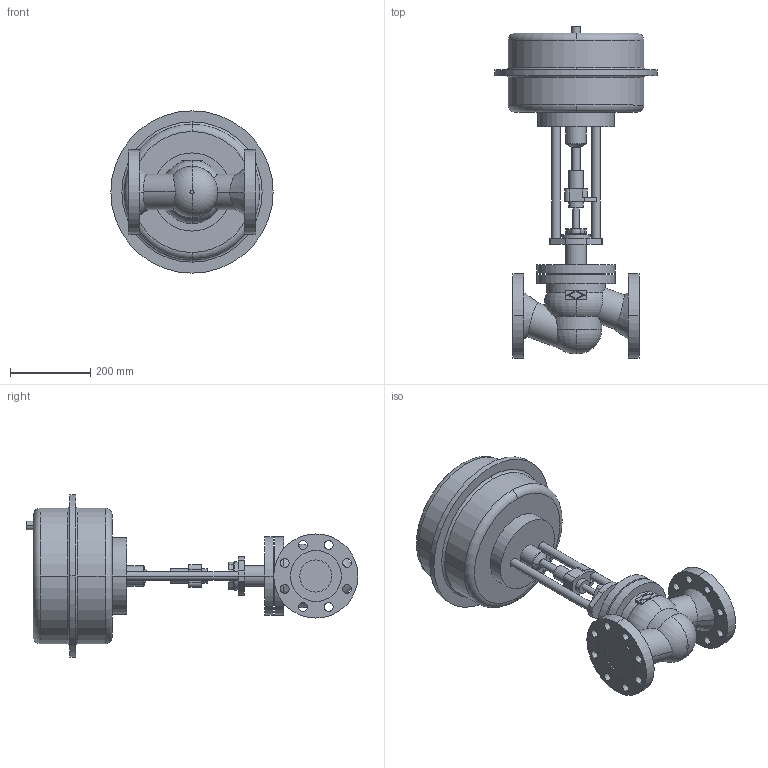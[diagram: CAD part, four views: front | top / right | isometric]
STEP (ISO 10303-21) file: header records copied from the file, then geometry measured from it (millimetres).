
FILE_DESCRIPTION( ( '' ), '1' );
FILE_NAME( 'F:/DE-SHS/TB/OR/04-Sonstiges/daten/files_3d/470-471_ANSI/c000005311.stp', '2014-04-15T09:03:51', ( '' ), ( '' ), ' ', ' ', ' ' );
FILE_SCHEMA( ( 'CONFIG_CONTROL_DESIGN' ) );
Length unit declared in the file: millimetre
Products named in the file (2): 1; 2
Bounding box: 405 x 828 x 405 mm (x, y, z)
Volume: 26472672.8 mm3; surface area: 965481.6 mm2
Topology: 2 solids, 2 shells, 189 faces, 473 edges, 315 vertices
Faces by surface type: cylinder 102, plane 66, torus 15, cone 6
Entity records: 6495 total; most frequent: CARTESIAN_POINT 1585, DIRECTION 1091, ORIENTED_EDGE 946, EDGE_CURVE 473, AXIS2_PLACEMENT_3D 445, VERTEX_POINT 315, CIRCLE 254, EDGE_LOOP 248
